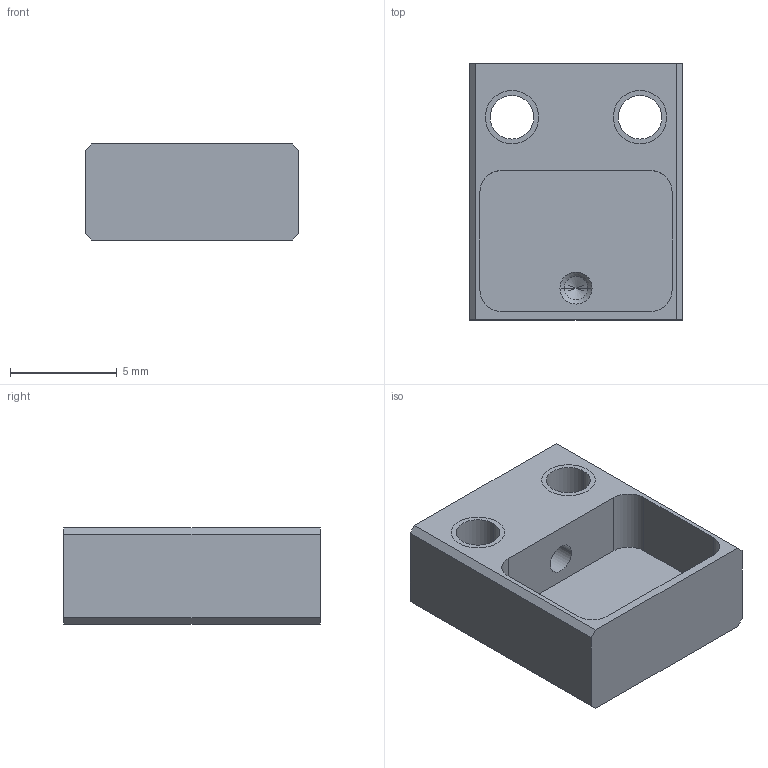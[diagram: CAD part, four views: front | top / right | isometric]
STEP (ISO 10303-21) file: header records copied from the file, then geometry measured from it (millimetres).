
FILE_DESCRIPTION((''),'2;1');
FILE_NAME('0000063874','2014-01-22T',('11000509'),(''),'PRO/ENGINEER BY PARAMETRIC TECHNOLOGY CORPORATION, 2013230','PRO/ENGINEER BY PARAMETRIC TECHNOLOGY CORPORATION, 2013230','');
FILE_SCHEMA(('AUTOMOTIVE_DESIGN { 1 0 10303 214 1 1 1 1 }'));
Length unit declared in the file: millimetre
Products named in the file (1): 0000063874
Bounding box: 10 x 12 x 4.5 mm (x, y, z)
Volume: 320.8 mm3; surface area: 656.6 mm2
Topology: 1 solids, 3 shells, 35 faces, 92 edges, 59 vertices
Faces by surface type: cylinder 16, plane 15, cone 4
Entity records: 1710 total; most frequent: DIRECTION 196, CARTESIAN_POINT 187, ORIENTED_EDGE 172, PROPERTY_DEFINITION 99, REPRESENTATION 97, PROPERTY_DEFINITION_REPRESENTATION 97, EDGE_CURVE 90, DESCRIPTIVE_REPRESENTATION_ITEM 89
